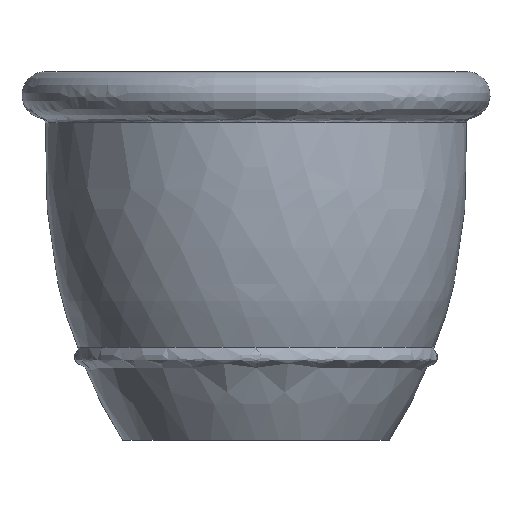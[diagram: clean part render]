
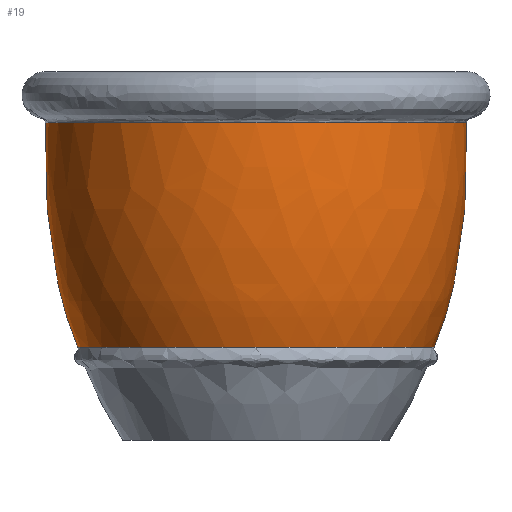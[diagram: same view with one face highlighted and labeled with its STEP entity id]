
A CAD part, front view. The second image highlights one B-rep face of the part: STEP entity #19.
In plain terms, the highlighted free-form (B-spline) face has degree [2, 2] with [3, 5] control points.
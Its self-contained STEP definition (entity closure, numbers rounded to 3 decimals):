
#19=ADVANCED_FACE('',(#38),#282,.T.);
#38=FACE_OUTER_BOUND('',#57,.T.);
#57=EDGE_LOOP('',(#85,#86,#87,#88));
#85=ORIENTED_EDGE('',*,*,#158,.F.);
#86=ORIENTED_EDGE('',*,*,#157,.T.);
#87=ORIENTED_EDGE('',*,*,#159,.T.);
#88=ORIENTED_EDGE('',*,*,#178,.F.);
#157=EDGE_CURVE('',#256,#255,#193,.T.);
#158=EDGE_CURVE('',#256,#267,#207,.T.);
#159=EDGE_CURVE('',#255,#264,#208,.T.);
#178=EDGE_CURVE('',#267,#264,#200,.T.);
#193=(
BOUNDED_CURVE()
B_SPLINE_CURVE(2,(#1141,#1142,#1143),.UNSPECIFIED.,.F.,.F.)
B_SPLINE_CURVE_WITH_KNOTS((3,3),(255.833,652.55),
 .UNSPECIFIED.)
CURVE()
GEOMETRIC_REPRESENTATION_ITEM()
RATIONAL_B_SPLINE_CURVE((1.,1.,1.))
REPRESENTATION_ITEM('')
);
#200=(
BOUNDED_CURVE()
B_SPLINE_CURVE(2,(#1244,#1245,#1246),.UNSPECIFIED.,.F.,.F.)
B_SPLINE_CURVE_WITH_KNOTS((3,3),(255.833,652.55),
 .UNSPECIFIED.)
CURVE()
GEOMETRIC_REPRESENTATION_ITEM()
RATIONAL_B_SPLINE_CURVE((1.,1.,1.))
REPRESENTATION_ITEM('')
);
#207=TRIMMED_CURVE($,#231,(#1145),(#1146),.T.,.CARTESIAN.);
#208=TRIMMED_CURVE($,#232,(#1148),(#1149),.T.,.CARTESIAN.);
#231=CIRCLE('',#389,258.721);
#232=CIRCLE('',#390,218.744);
#255=VERTEX_POINT('',#1097);
#256=VERTEX_POINT('',#1098);
#264=VERTEX_POINT('',#1106);
#267=VERTEX_POINT('',#1109);
#282=(
BOUNDED_SURFACE()
B_SPLINE_SURFACE(2,2,((#560,#561,#562,#563,#564),(#565,#566,#567,#568,#569),
(#570,#571,#572,#573,#574)),.UNSPECIFIED.,.F.,.F.,.F.)
B_SPLINE_SURFACE_WITH_KNOTS((3,3),(3,2,3),(255.833,652.55),
(0.,628.053,1256.106),.UNSPECIFIED.)
GEOMETRIC_REPRESENTATION_ITEM()
RATIONAL_B_SPLINE_SURFACE(((1.,0.707,1.,0.707,1.),
(1.,0.707,1.,0.707,1.),(1.,0.707,1.,
0.707,1.)))
REPRESENTATION_ITEM('')
SURFACE()
);
#389=AXIS2_PLACEMENT_3D($,#1144,#423,#424);
#390=AXIS2_PLACEMENT_3D($,#1147,#425,#426);
#423=DIRECTION('',(0.,0.,1.));
#424=DIRECTION('',(-1.,0.,0.));
#425=DIRECTION('',(0.,0.,1.));
#426=DIRECTION('',(-1.,0.,0.));
#560=CARTESIAN_POINT('',(-1098.681,-1376.516,207.572));
#561=CARTESIAN_POINT('',(-1098.681,-1635.237,207.572));
#562=CARTESIAN_POINT('',(-839.96,-1635.237,207.572));
#563=CARTESIAN_POINT('',(-581.239,-1635.237,207.572));
#564=CARTESIAN_POINT('',(-581.239,-1376.516,207.572));
#565=CARTESIAN_POINT('',(-1103.637,-1376.516,37.598));
#566=CARTESIAN_POINT('',(-1103.637,-1640.193,37.598));
#567=CARTESIAN_POINT('',(-839.96,-1640.193,37.598));
#568=CARTESIAN_POINT('',(-576.283,-1640.193,37.598));
#569=CARTESIAN_POINT('',(-576.283,-1376.516,37.598));
#570=CARTESIAN_POINT('',(-1058.705,-1376.516,-68.179));
#571=CARTESIAN_POINT('',(-1058.705,-1595.261,-68.179));
#572=CARTESIAN_POINT('',(-839.96,-1595.261,-68.179));
#573=CARTESIAN_POINT('',(-621.216,-1595.261,-68.179));
#574=CARTESIAN_POINT('',(-621.216,-1376.516,-68.179));
#1097=CARTESIAN_POINT('',(-1058.705,-1376.516,-68.179));
#1098=CARTESIAN_POINT('',(-1098.681,-1376.516,207.572));
#1106=CARTESIAN_POINT('',(-621.216,-1376.516,-68.179));
#1109=CARTESIAN_POINT('',(-581.239,-1376.516,207.572));
#1141=CARTESIAN_POINT('',(-1098.681,-1376.516,207.572));
#1142=CARTESIAN_POINT('',(-1103.637,-1376.516,37.598));
#1143=CARTESIAN_POINT('',(-1058.705,-1376.516,-68.179));
#1144=CARTESIAN_POINT('',(-839.96,-1376.516,207.572));
#1145=CARTESIAN_POINT('',(-1098.681,-1376.516,207.572));
#1146=CARTESIAN_POINT('',(-581.239,-1376.516,207.572));
#1147=CARTESIAN_POINT('',(-839.96,-1376.516,-68.179));
#1148=CARTESIAN_POINT('',(-1058.705,-1376.516,-68.179));
#1149=CARTESIAN_POINT('',(-621.216,-1376.516,-68.179));
#1244=CARTESIAN_POINT('',(-581.239,-1376.516,207.572));
#1245=CARTESIAN_POINT('',(-576.283,-1376.516,37.598));
#1246=CARTESIAN_POINT('',(-621.216,-1376.516,-68.179));
